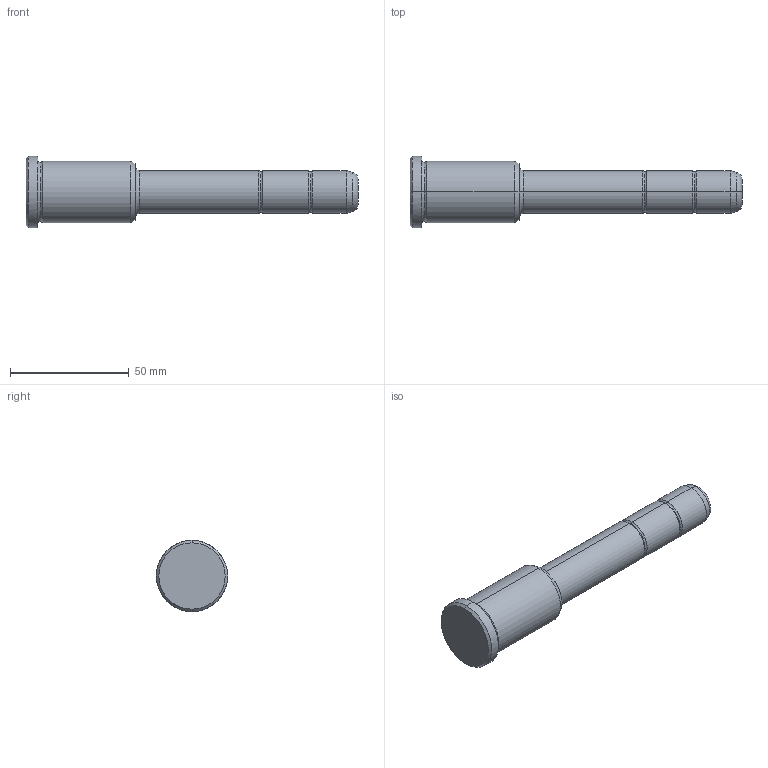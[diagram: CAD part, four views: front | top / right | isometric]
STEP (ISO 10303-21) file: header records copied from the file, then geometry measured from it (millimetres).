
FILE_DESCRIPTION(('CATIA V5 STEP Exchange'),'2;1');
FILE_NAME('C:\Users\Utente\Desktop\IO LAVORO\3D X SITO CF\X SITO\PLASTICA\351\351-18X46X140.stp','2021-08-19T12:36:00+00:00',('none'),('none'),'CATIA Version 5 Release 20 GA (IN-10)','CATIA V5 STEP AP203','none');
FILE_SCHEMA(('CONFIG_CONTROL_DESIGN'));
Length unit declared in the file: millimetre
Products named in the file (1): 351-18X46X140
Bounding box: 140 x 30 x 30 mm (x, y, z)
Volume: 48790.3 mm3; surface area: 10319.1 mm2
Topology: 1 solids, 1 shells, 36 faces, 102 edges, 70 vertices
Faces by surface type: torus 16, cylinder 10, cone 6, plane 4
Entity records: 1292 total; most frequent: CARTESIAN_POINT 321, ORIENTED_EDGE 204, DIRECTION 166, AXIS2_PLACEMENT_3D 115, EDGE_CURVE 102, CIRCLE 78, VERTEX_POINT 70, EDGE_LOOP 38
